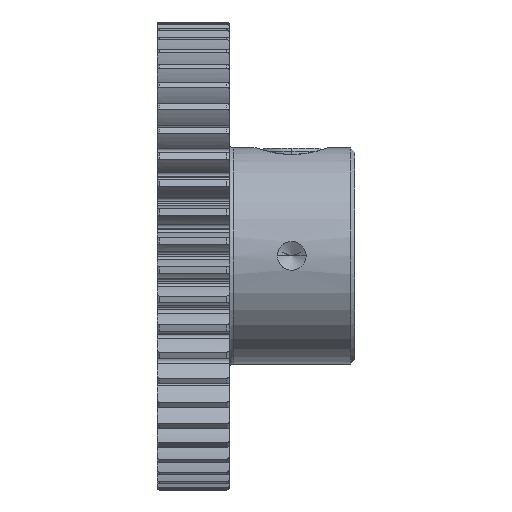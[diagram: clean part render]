
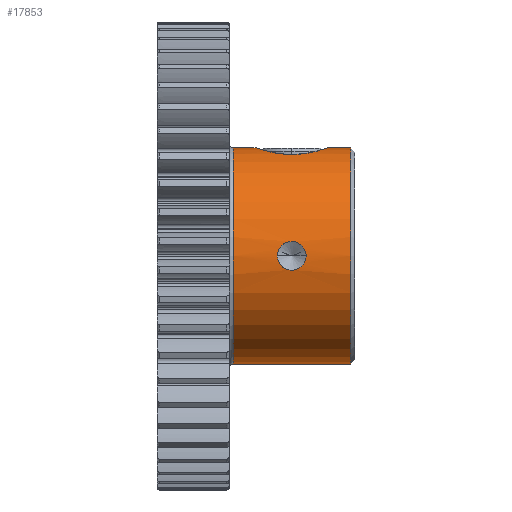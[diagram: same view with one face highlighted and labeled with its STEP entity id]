
A CAD part, top view. The second image highlights one B-rep face of the part: STEP entity #17853.
In plain terms, the highlighted cylindrical face has radius 4.763 mm (diameter 9.525 mm), a partial arc.
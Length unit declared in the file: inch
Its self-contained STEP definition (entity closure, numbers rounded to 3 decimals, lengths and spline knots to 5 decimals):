
#7836=CARTESIAN_POINT('',(0.06952,0.,0.));
#7837=DIRECTION('',(1.,0.,0.));
#7838=DIRECTION('',(0.,1.,0.));
#7839=AXIS2_PLACEMENT_3D('',#7836,#7837,#7838);
#7841=CARTESIAN_POINT('',(0.27348,0.,0.));
#7842=DIRECTION('',(1.,0.,0.));
#7843=DIRECTION('',(0.,1.,0.));
#7844=AXIS2_PLACEMENT_3D('',#7841,#7842,#7843);
#7846=CARTESIAN_POINT('',(0.1961,0.,0.1875));
#7847=CARTESIAN_POINT('',(0.1961,-0.00221,0.1875));
#7848=CARTESIAN_POINT('',(0.19554,-0.00647,
0.18742));
#7849=CARTESIAN_POINT('',(0.19302,-0.01263,
0.1871));
#7850=CARTESIAN_POINT('',(0.18899,-0.01787,
0.18667));
#7851=CARTESIAN_POINT('',(0.18375,-0.0219,
0.18623));
#7852=CARTESIAN_POINT('',(0.17765,-0.02442,
0.1859));
#7853=CARTESIAN_POINT('',(0.17111,-0.02529,
0.18579));
#7854=CARTESIAN_POINT('',(0.16456,-0.02443,
0.1859));
#7855=CARTESIAN_POINT('',(0.15846,-0.0219,
0.18623));
#7856=CARTESIAN_POINT('',(0.15321,-0.01787,
0.18667));
#7857=CARTESIAN_POINT('',(0.14918,-0.01263,
0.1871));
#7858=CARTESIAN_POINT('',(0.14666,-0.00647,
0.18742));
#7859=CARTESIAN_POINT('',(0.1461,-0.00221,0.1875));
#7860=CARTESIAN_POINT('',(0.1461,0.,0.1875));
#7862=CARTESIAN_POINT('',(0.1461,0.,0.1875));
#7863=CARTESIAN_POINT('',(0.1461,0.00221,0.1875));
#7864=CARTESIAN_POINT('',(0.14666,0.00647,
0.18742));
#7865=CARTESIAN_POINT('',(0.14918,0.01263,
0.1871));
#7866=CARTESIAN_POINT('',(0.15321,0.01787,
0.18667));
#7867=CARTESIAN_POINT('',(0.15845,0.0219,
0.18623));
#7868=CARTESIAN_POINT('',(0.16455,0.02442,
0.1859));
#7869=CARTESIAN_POINT('',(0.17109,0.02529,
0.18579));
#7870=CARTESIAN_POINT('',(0.17764,0.02443,
0.1859));
#7871=CARTESIAN_POINT('',(0.18374,0.0219,
0.18623));
#7872=CARTESIAN_POINT('',(0.18899,0.01787,
0.18667));
#7873=CARTESIAN_POINT('',(0.19302,0.01263,
0.1871));
#7874=CARTESIAN_POINT('',(0.19554,0.00647,
0.18742));
#7875=CARTESIAN_POINT('',(0.1961,0.00221,0.1875));
#7876=CARTESIAN_POINT('',(0.1961,0.,0.1875));
#7878=CARTESIAN_POINT('',(0.2331,0.1875,
0.));
#7879=CARTESIAN_POINT('',(0.2331,0.1875,
0.00453));
#7880=CARTESIAN_POINT('',(0.23219,0.18718,
0.01341));
#7881=CARTESIAN_POINT('',(0.22809,0.18577,
0.02645));
#7882=CARTESIAN_POINT('',(0.22139,0.18367,
0.03828));
#7883=CARTESIAN_POINT('',(0.2124,0.18122,
0.04843));
#7884=CARTESIAN_POINT('',(0.20143,0.17886,
0.05642));
#7885=CARTESIAN_POINT('',(0.18954,0.1771,
0.06161));
#7886=CARTESIAN_POINT('',(0.1773,0.17618,
0.06415));
#7887=CARTESIAN_POINT('',(0.16491,0.17618,
0.06416));
#7888=CARTESIAN_POINT('',(0.15267,0.1771,
0.06162));
#7889=CARTESIAN_POINT('',(0.14078,0.17885,
0.05642));
#7890=CARTESIAN_POINT('',(0.1298,0.18122,
0.04843));
#7891=CARTESIAN_POINT('',(0.1208,0.18367,
0.03827));
#7892=CARTESIAN_POINT('',(0.11411,0.18577,
0.02644));
#7893=CARTESIAN_POINT('',(0.11001,0.18718,
0.01342));
#7894=CARTESIAN_POINT('',(0.1091,0.1875,
0.00453));
#7895=CARTESIAN_POINT('',(0.1091,0.1875,
0.));
#7924=CARTESIAN_POINT('',(0.1091,0.1875,
0.));
#7941=CARTESIAN_POINT('',(0.2331,0.1875,
0.));
#7970=DIRECTION('',(-1.,0.,0.));
#7971=VECTOR('',#7970,0.03958);
#7972=CARTESIAN_POINT('',(0.1091,0.1875,
0.));
#7973=LINE('',#7972,#7971);
#7974=DIRECTION('',(-1.,0.,0.));
#7975=VECTOR('',#7974,0.20395);
#7976=CARTESIAN_POINT('',(0.27348,-0.1875,0.));
#7977=LINE('',#7976,#7975);
#7983=DIRECTION('',(-1.,0.,0.));
#7984=VECTOR('',#7983,0.04038);
#7985=CARTESIAN_POINT('',(0.27348,0.1875,0.));
#7986=LINE('',#7985,#7984);
#9644=CARTESIAN_POINT('',(0.27348,0.1875,0.));
#9646=VERTEX_POINT('',#9644);
#9648=CARTESIAN_POINT('',(0.27348,-0.1875,0.));
#9650=VERTEX_POINT('',#9648);
#9655=CARTESIAN_POINT('',(0.06952,-0.1875,0.));
#9656=CARTESIAN_POINT('',(0.06952,0.1875,0.));
#9657=VERTEX_POINT('',#9655);
#9658=VERTEX_POINT('',#9656);
#9661=VERTEX_POINT('',#7924);
#9662=VERTEX_POINT('',#7941);
#9671=VERTEX_POINT('',#7846);
#9672=VERTEX_POINT('',#7860);
#17829=CARTESIAN_POINT('',(-0.01403,0.,0.));
#17830=DIRECTION('',(1.,0.,0.));
#17831=DIRECTION('',(0.,-1.,0.));
#17832=AXIS2_PLACEMENT_3D('',#17829,#17830,#17831);
#17833=CYLINDRICAL_SURFACE('',#17832,0.1875);
#17835=ORIENTED_EDGE('',*,*,#17834,.F.);
#17837=ORIENTED_EDGE('',*,*,#17836,.F.);
#17839=ORIENTED_EDGE('',*,*,#17838,.T.);
#17841=ORIENTED_EDGE('',*,*,#17840,.T.);
#17842=ORIENTED_EDGE('',*,*,#17823,.F.);
#17844=ORIENTED_EDGE('',*,*,#17843,.F.);
#17845=EDGE_LOOP('',(#17835,#17837,#17839,#17841,#17842,#17844));
#17846=FACE_OUTER_BOUND('',#17845,.F.);
#17848=ORIENTED_EDGE('',*,*,#17847,.F.);
#17850=ORIENTED_EDGE('',*,*,#17849,.F.);
#17851=EDGE_LOOP('',(#17848,#17850));
#17852=FACE_BOUND('',#17851,.F.);
#17853=ADVANCED_FACE('',(#17846,#17852),#17833,.T.);
#7840=CIRCLE('',#7839,0.1875);
#7845=CIRCLE('',#7844,0.1875);
#7861=B_SPLINE_CURVE_WITH_KNOTS('',3,(#7846,#7847,#7848,#7849,#7850,#7851,#7852,
#7853,#7854,#7855,#7856,#7857,#7858,#7859,#7860),.UNSPECIFIED.,.F.,.F.,(4,1,1,1,
1,1,1,1,1,1,1,1,4),(0.,0.08333,0.16667,0.25,
0.33333,0.41667,0.5,0.58333,0.66667,
0.75,0.83333,0.91667,1.),.UNSPECIFIED.);
#7877=B_SPLINE_CURVE_WITH_KNOTS('',3,(#7862,#7863,#7864,#7865,#7866,#7867,#7868,
#7869,#7870,#7871,#7872,#7873,#7874,#7875,#7876),.UNSPECIFIED.,.F.,.F.,(4,1,1,1,
1,1,1,1,1,1,1,1,4),(0.,0.08333,0.16667,0.25,
0.33333,0.41667,0.5,0.58333,0.66667,
0.75,0.83333,0.91667,1.),.UNSPECIFIED.);
#7896=B_SPLINE_CURVE_WITH_KNOTS('',3,(#7878,#7879,#7880,#7881,#7882,#7883,#7884,
#7885,#7886,#7887,#7888,#7889,#7890,#7891,#7892,#7893,#7894,#7895),
.UNSPECIFIED.,.F.,.F.,(4,1,1,1,1,1,1,1,1,1,1,1,1,1,1,4),(0.,0.06667,
0.13333,0.2,0.26667,0.33333,0.4,
0.46667,0.53333,0.6,0.66667,0.73333,
0.8,0.86667,0.93333,1.),.UNSPECIFIED.);
#17823=EDGE_CURVE('',#9658,#9657,#7840,.T.);
#17834=EDGE_CURVE('',#9662,#9661,#7896,.T.);
#17836=EDGE_CURVE('',#9646,#9662,#7986,.T.);
#17838=EDGE_CURVE('',#9646,#9650,#7845,.T.);
#17840=EDGE_CURVE('',#9650,#9657,#7977,.T.);
#17843=EDGE_CURVE('',#9661,#9658,#7973,.T.);
#17847=EDGE_CURVE('',#9671,#9672,#7861,.T.);
#17849=EDGE_CURVE('',#9672,#9671,#7877,.T.);
